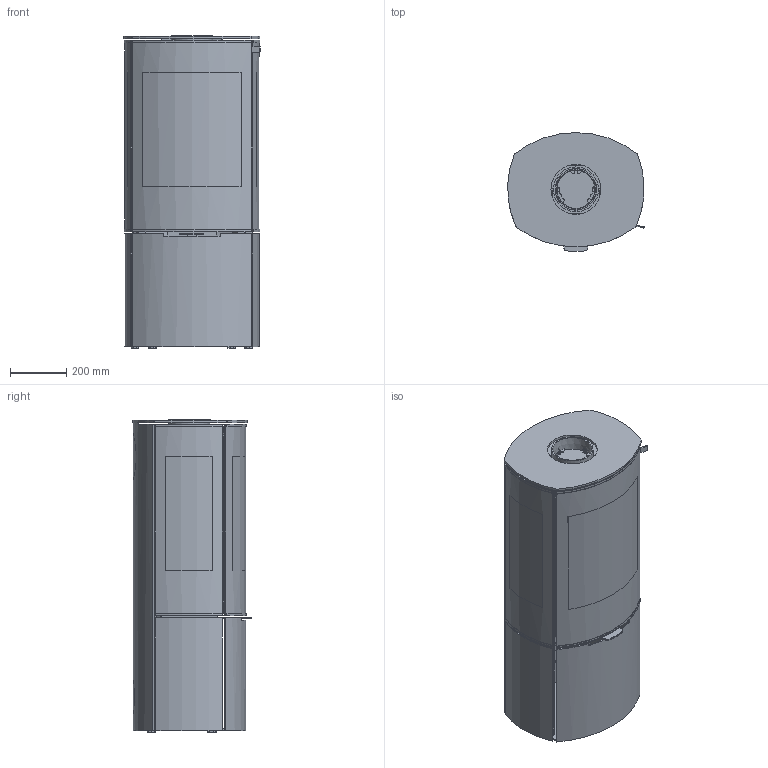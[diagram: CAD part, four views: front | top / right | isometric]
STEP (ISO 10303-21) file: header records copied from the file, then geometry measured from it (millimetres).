
FILE_DESCRIPTION(/* description */ (''),/* implementation_level */ '2;1');
FILE_NAME(/* name */ 'C:\WF\Designs\PROJEKTER\14-Alma-Caro\Simplified Models\14-0411 Caro 110 with sideglass.stp',/* time_stamp */ '2022-09-19T11:45:21+02:00',/* author */ ('ksj'),/* organization */ (''),/* preprocessor_version */ 'ST-DEVELOPER v18.1',/* originating_system */ 'Autodesk Inventor 2020',/* authorisation */ '');
FILE_SCHEMA (('AUTOMOTIVE_DESIGN { 1 0 10303 214 3 1 1 }'));
Products named in the file (1): 14-0411 Caro 110 with sideglass
Bounding box: 485.59 x 421.74 x 1113 mm (x, y, z)
Volume: 14788569.7 mm3; surface area: 7003934.4 mm2
Topology: 49 solids, 49 shells, 1675 faces, 4864 edges, 3326 vertices
Faces by surface type: plane 1015, cylinder 558, bspline 82, torus 12, cone 6, sphere 2
Full cylindrical faces by diameter (mm): 10 x4, 160 x1, 178 x1
Entity records: 65893 total; most frequent: CARTESIAN_POINT 19025, ORIENTED_EDGE 9716, DIRECTION 9074, EDGE_CURVE 4858, VERTEX_POINT 3326, LINE 3214, VECTOR 3214, AXIS2_PLACEMENT_3D 2930
